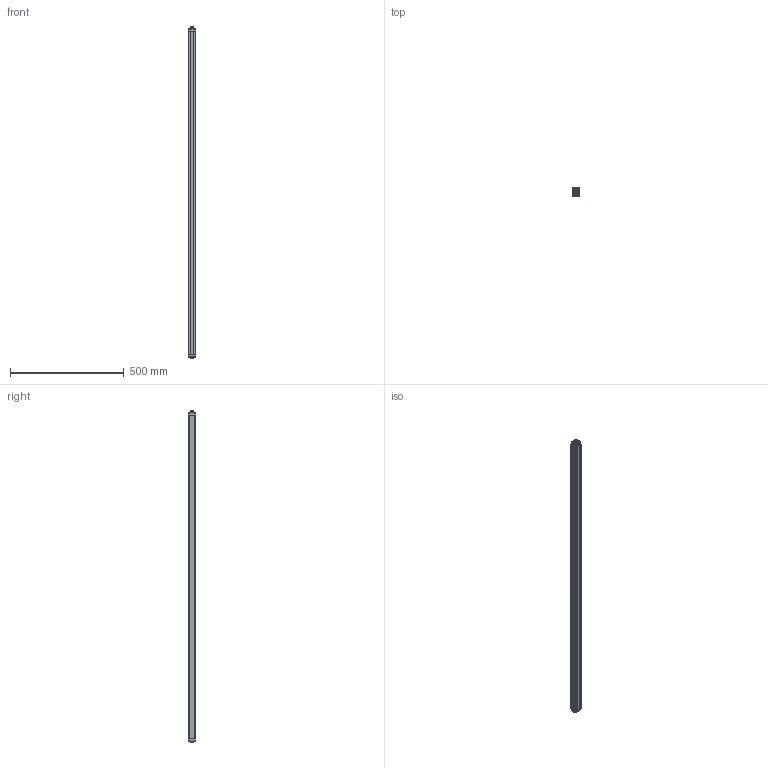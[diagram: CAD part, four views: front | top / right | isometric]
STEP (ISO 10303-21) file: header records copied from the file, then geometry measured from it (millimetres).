
FILE_DESCRIPTION(/* description */ (''),/* implementation_level */ '2;1');
FILE_NAME(/* name */ 'TYG20-70.stp',/* time_stamp */ '2023-08-24T14:36:17+08:00',/* author */ (''),/* organization */ (''),/* preprocessor_version */ 'ST-DEVELOPER v16',/* originating_system */ 'SIEMENS PLM Software NX 11.0',/* authorisation */ '');
FILE_SCHEMA (('AUTOMOTIVE_DESIGN { 1 0 10303 214 3 1 1 1 }'));
Length unit declared in the file: millimetre
Products named in the file (5): YAKELI8080; B-08238181; K-08238282; 202303318383; TYG20-56_stp
Assembly tree (4 placements, depth 2):
  TYG20-56_stp
    202303318383
    K-08238282
    B-08238181
    YAKELI8080
Bounding box: 31.87 x 33.07 x 1458 mm (x, y, z)
Volume: 484647.5 mm3; surface area: 506238.9 mm2
Topology: 4 solids, 4 shells, 629 faces, 1887 edges, 1256 vertices
Faces by surface type: plane 346, cylinder 203, cone 36, sphere 16, torus 16, extrusion 8, bspline 4
Entity records: 21943 total; most frequent: CARTESIAN_POINT 4541, ORIENTED_EDGE 3758, DIRECTION 3553, EDGE_CURVE 1879, VERTEX_POINT 1256, AXIS2_PLACEMENT_3D 1188, VECTOR 1177, LINE 1169
